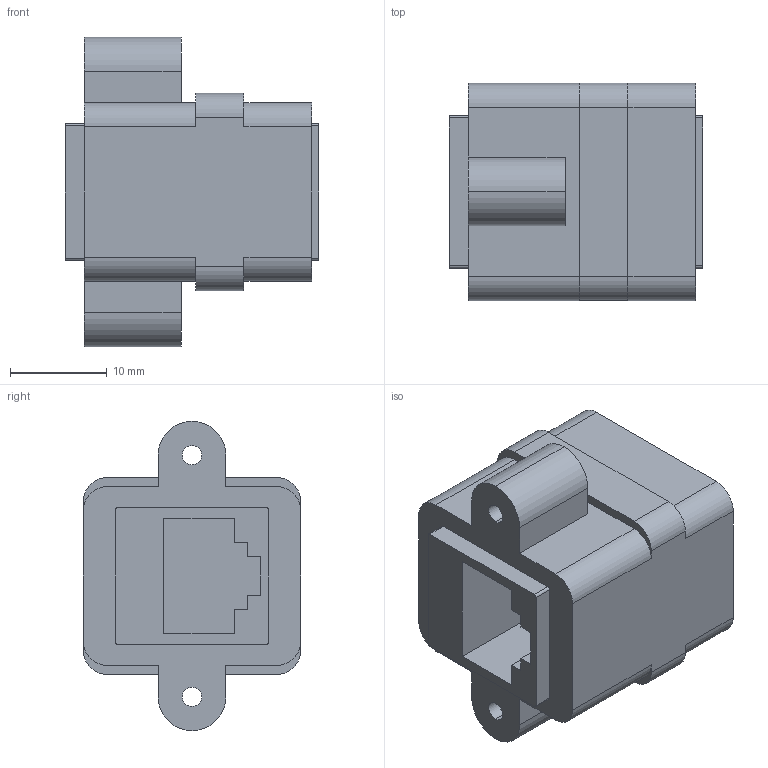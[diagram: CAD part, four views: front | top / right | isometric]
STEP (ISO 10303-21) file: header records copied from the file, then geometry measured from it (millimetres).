
FILE_DESCRIPTION (( 'STEP AP214' ), '1' );
FILE_NAME ('RJ45_socket.STEP', '2015-02-26T22:53:12', ( '' ), ( '' ), '', '', '' );
FILE_SCHEMA (( '' ));
Length unit declared in the file: millimetre
Products named in the file (1): RJ45_socket
Bounding box: 26.25 x 22.5 x 32 mm (x, y, z)
Volume: 9525.7 mm3; surface area: 4155.2 mm2
Topology: 1 solids, 1 shells, 83 faces, 231 edges, 154 vertices
Faces by surface type: plane 56, cylinder 27
Entity records: 2976 total; most frequent: CARTESIAN_POINT 469, ORIENTED_EDGE 462, DIRECTION 453, EDGE_CURVE 231, VECTOR 177, LINE 177, VERTEX_POINT 154, AXIS2_PLACEMENT_3D 138
